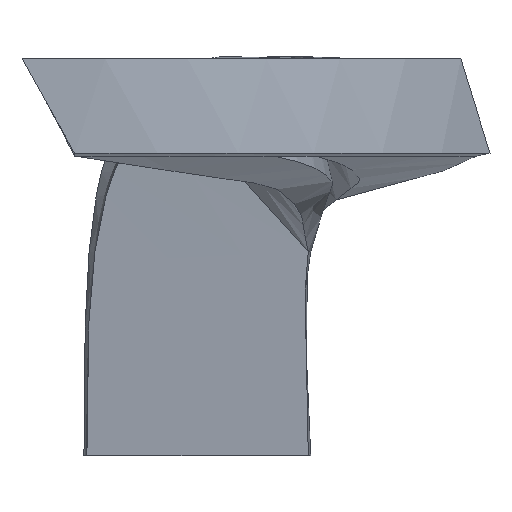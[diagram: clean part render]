
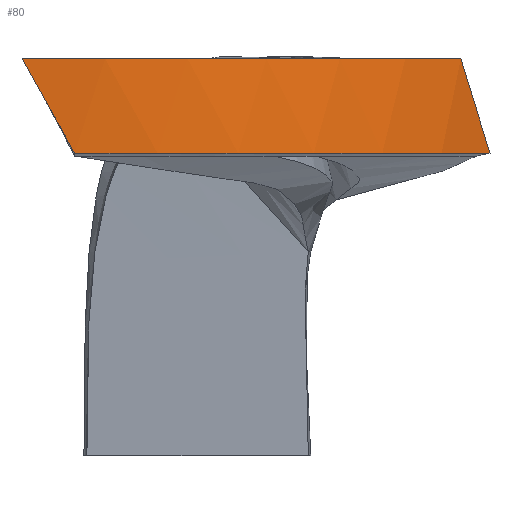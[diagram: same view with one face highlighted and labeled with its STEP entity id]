
A CAD part, left-side view. The second image highlights one B-rep face of the part: STEP entity #80.
In plain terms, the highlighted cylindrical face has radius 173.73 mm (diameter 347.46 mm), a partial arc.
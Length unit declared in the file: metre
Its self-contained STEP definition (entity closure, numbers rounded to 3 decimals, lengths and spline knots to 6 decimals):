
#80 = ADVANCED_FACE( '', ( #106 ), #107, .T. );
#106 = FACE_OUTER_BOUND( '', #1357, .T. );
#107 = CYLINDRICAL_SURFACE( '', #1358, 0.17373 );
#1357 = EDGE_LOOP( '', ( #7464, #7465, #7466, #7467 ) );
#1358 = AXIS2_PLACEMENT_3D( '', #7468, #7469, #7470 );
#7464 = ORIENTED_EDGE( '', *, *, #7555, .F. );
#7465 = ORIENTED_EDGE( '', *, *, #7550, .F. );
#7466 = ORIENTED_EDGE( '', *, *, #7549, .T. );
#7467 = ORIENTED_EDGE( '', *, *, #7567, .T. );
#7468 = CARTESIAN_POINT( '', ( 0., 0., 0. ) );
#7469 = DIRECTION( '', ( 0., 0., 1. ) );
#7470 = DIRECTION( '', ( -1., 0., 0. ) );
#7549 = EDGE_CURVE( '', #7594, #7599, #7601, .T. );
#7550 = EDGE_CURVE( '', #7594, #7602, #7603, .T. );
#7555 = EDGE_CURVE( '', #7602, #7611, #7612, .T. );
#7567 = EDGE_CURVE( '', #7599, #7611, #7632, .T. );
#7594 = VERTEX_POINT( '', #7670 );
#7599 = VERTEX_POINT( '', #7687 );
#7601 = B_SPLINE_CURVE_WITH_KNOTS( '', 3, ( #7698, #7699, #7700, #7701, #7702, #7703 ), .UNSPECIFIED., .F., .F., ( 4, 2, 4 ), ( 0., 0.01971, 0.039419 ), .UNSPECIFIED. );
#7602 = VERTEX_POINT( '', #7704 );
#7603 = CIRCLE( '', #7705, 0.17373 );
#7611 = VERTEX_POINT( '', #7722 );
#7612 = B_SPLINE_CURVE_WITH_KNOTS( '', 3, ( #7723, #7724, #7725, #7726, #7727, #7728 ), .UNSPECIFIED., .F., .F., ( 4, 2, 4 ), ( 0., 0.01971, 0.039419 ), .UNSPECIFIED. );
#7632 = CIRCLE( '', #7971, 0.17373 );
#7670 = CARTESIAN_POINT( '', ( -0.088209, -0.149671, -0.034427 ) );
#7687 = CARTESIAN_POINT( '', ( -0.104182, -0.139026, 0. ) );
#7698 = CARTESIAN_POINT( '', ( -0.088209, -0.149671, -0.034427 ) );
#7699 = CARTESIAN_POINT( '', ( -0.090951, -0.148055, -0.028679 ) );
#7700 = CARTESIAN_POINT( '', ( -0.093666, -0.146353, -0.022943 ) );
#7701 = CARTESIAN_POINT( '', ( -0.099003, -0.142797, -0.011473 ) );
#7702 = CARTESIAN_POINT( '', ( -0.101624, -0.140943, -0.005741 ) );
#7703 = CARTESIAN_POINT( '', ( -0.104182, -0.139026, 0. ) );
#7704 = CARTESIAN_POINT( '', ( -0.173723, 0.001556, -0.034427 ) );
#7705 = AXIS2_PLACEMENT_3D( '', #8530, #8531, #8532 );
#7722 = CARTESIAN_POINT( '', ( -0.172491, 0.020711, 0. ) );
#7723 = CARTESIAN_POINT( '', ( -0.173723, 0.001556, -0.034427 ) );
#7724 = CARTESIAN_POINT( '', ( -0.173695, 0.004739, -0.028679 ) );
#7725 = CARTESIAN_POINT( '', ( -0.173578, 0.00794, -0.022943 ) );
#7726 = CARTESIAN_POINT( '', ( -0.173167, 0.01434, -0.011473 ) );
#7727 = CARTESIAN_POINT( '', ( -0.172872, 0.017538, -0.005741 ) );
#7728 = CARTESIAN_POINT( '', ( -0.172491, 0.020711, 0. ) );
#7971 = AXIS2_PLACEMENT_3D( '', #8548, #8549, #8550 );
#8530 = CARTESIAN_POINT( '', ( 0., 0., -0.034427 ) );
#8531 = DIRECTION( '', ( 0., 0., -1. ) );
#8532 = DIRECTION( '', ( -1., 0., 0. ) );
#8548 = CARTESIAN_POINT( '', ( 0., 0., 0. ) );
#8549 = DIRECTION( '', ( 0., 0., -1. ) );
#8550 = DIRECTION( '', ( -1., 0., 0. ) );
